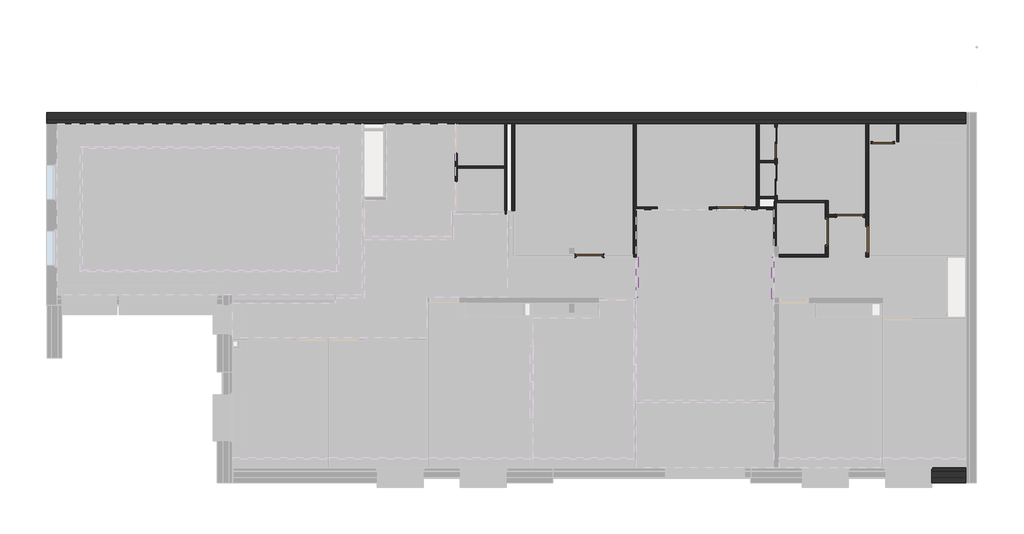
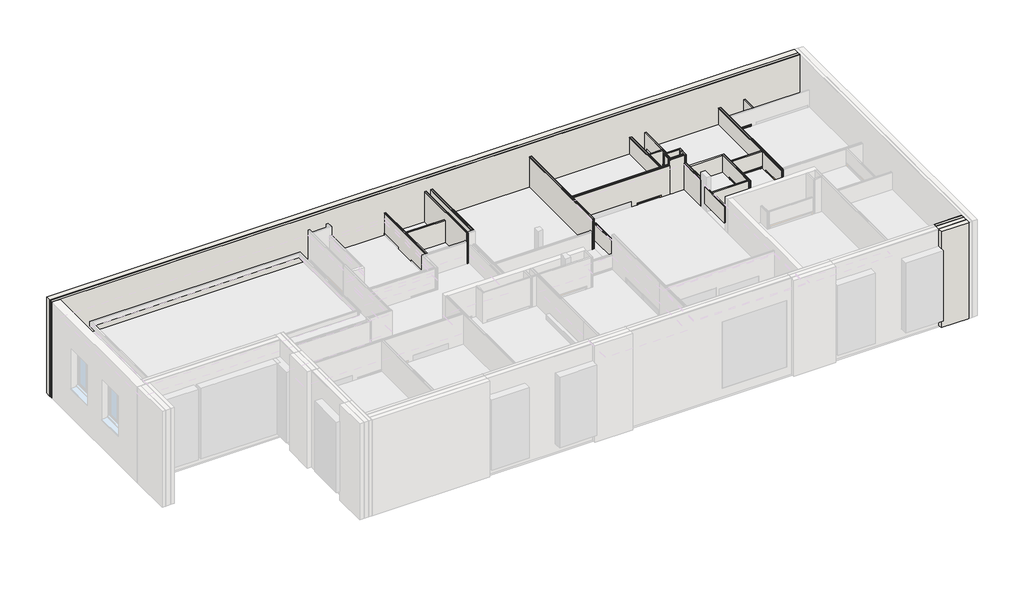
# One storey, part 5 of 8: 25 walls, 8 doors.
"""IFC4 building model written with IfcOpenShell, lengths in millimetres."""

from ifc_helpers import new_model, si_unit, frame, origin, origin_with_axes, place, context, project, spatial, polyline, outline, extrude, faceted_brep, transform, mapped, element, save
from components import door_922e83f1, door_a5923646, door_bff1ae0a, door_42d56233

model = new_model("IFC4")

# Units and contexts
model_context = context("Model", 3, world=origin())
ifc_project = project(units=[si_unit("LENGTHUNIT", "METRE", prefix="MILLI")], contexts=[model_context])

# Site, building, storey
site = spatial("IfcSite", under=ifc_project)
building = spatial("IfcBuilding", under=site)
storey = spatial("IfcBuildingStorey", under=building, Name="0 Mairie RDC 0.00", Elevation=0.0)

# Doors
placement = place(None, origin())
door_shape = door_922e83f1(model_context)
element("IfcDoor", 1, ObjectType="Portes - Int. Simple - PP (0.89m x 2.04m) (1)", at=placement, inside=storey, context=model_context, shape_type="MappedRepresentation", body=[
    mapped(door_shape, transform((-1617.7552543, -6588.7824715, 0.0), x_axis=(0.0, 1.0, 0.0), y_axis=(-1.0, 0.0, 0.0), z_axis=(0.0, 0.0, 1.0))),
])
element("IfcDoor", 2, ObjectType="Portes - Int. Simple - PP (0.89m x 2.04m) (1)", at=placement, inside=storey, context=model_context, shape_type="MappedRepresentation", body=[
    mapped(door_shape, transform((-5847.4166831, -4878.2154166, 0.0), x_axis=(-1.0, 0.0, 0.0), y_axis=(0.0, -1.0, 0.0), z_axis=(0.0, 0.0, 1.0))),
])
element("IfcDoor", 3, ObjectType="Portes - Int. Simple - PP (0.89m x 2.04m) (1)", at=placement, inside=storey, context=model_context, shape_type="MappedRepresentation", body=[
    mapped(door_shape, transform((-1697.7552543, -5137.6533676, 0.0), x_axis=(-1.0, 0.0, 0.0), y_axis=(0.0, -1.0, 0.0), z_axis=(0.0, 0.0, 1.0))),
])
door_2_shape = door_a5923646(model_context)
element("IfcDoor", 4, ObjectType="Portes - Int. Simple - PP (0.89m x 2.04m) (2)", at=placement, inside=storey, context=model_context, shape_type="MappedRepresentation", body=[
    mapped(door_2_shape, transform((-3018.9176162, -6252.6533676, 0.0), x_axis=(0.0, 1.0, 0.0), y_axis=(-1.0, 0.0, 0.0), z_axis=(0.0, 0.0, 1.0))),
])
element("IfcDoor", 5, ObjectType="Portes - Int. Simple - PP (0.89m x 2.04m) (2)", at=placement, inside=storey, context=model_context, shape_type="MappedRepresentation", body=[
    mapped(door_2_shape, transform((-10848.5461708, -6532.5340392, 0.0), x_axis=(-1.0, 0.0, 0.0), y_axis=(0.0, -1.0, 0.0), z_axis=(0.0, 0.0, 1.0))),
])
door_3_shape = door_bff1ae0a(model_context)
element("IfcDoor", 6, ObjectType="Portes - Int. Simple - PP (0.73m x 2.04m)", at=placement, inside=storey, context=model_context, shape_type="MappedRepresentation", body=[
    mapped(door_3_shape, transform((-1595.8864219, -2672.7637486, 0.0), x_axis=(1.0, 0.0, 0.0), y_axis=(0.0, 1.0, 0.0), z_axis=(0.0, 0.0, 1.0))),
])
door_4_shape = door_42d56233(model_context)
element("IfcDoor", 7, ObjectType="Portes - Placard coulissante - 2 panneaux - Placard coulissante - 2 panneaux 1.10", at=placement, inside=storey, context=model_context, shape_type="MappedRepresentation", body=[
    mapped(door_4_shape, transform((-4807.4967035, -3189.805772, 0.0), x_axis=(0.0, 1.0, 0.0), y_axis=(-1.0, 0.0, 0.0), z_axis=(0.0, 0.0, 1.0))),
])
element("IfcDoor", 8, ObjectType="Portes - Placard coulissante - 2 panneaux - Placard coulissante - 2 panneaux 1.10", at=placement, inside=storey, context=model_context, shape_type="MappedRepresentation", body=[
    mapped(door_4_shape, transform((-4877.4967035, -3377.5549021, 0.0), x_axis=(0.0, -1.0, 0.0), y_axis=(1.0, 0.0, 0.0), z_axis=(0.0, 0.0, 1.0))),
])

# Walls
element("IfcWall", 9, ObjectType="Murs - Mur de base - A cloison placostil 98 sèche", at=placement, inside=storey, context=model_context, shape_type="SweptSolid", body=[
    extrude(outline(polyline([(-9808.4471465, -6632.5340392), (-9808.4471465, -1972.7637486), (-9795.9471465, -1972.7637486), (-9795.9471465, -6632.5340392), (-9808.4471465, -6632.5340392)])), origin_with_axes(), (0.0, 0.0, 1.0), 3370.0),
    extrude(outline(polyline([(-9795.9471465, -6632.5340392), (-9795.9471465, -1972.7637486), (-9783.4471465, -1972.7637486), (-9783.4471465, -6632.5340392), (-9795.9471465, -6632.5340392)])), origin_with_axes(), (0.0, 0.0, 1.0), 3370.0),
    extrude(outline(polyline([(-9783.4471465, -6632.5340392), (-9783.4471465, -1972.7637486), (-9733.4471465, -1972.7637486), (-9733.4471465, -6632.5340392), (-9783.4471465, -6632.5340392)])), origin_with_axes(), (0.0, 0.0, 1.0), 3370.0),
    extrude(outline(polyline([(-9733.4471465, -6632.5340392), (-9733.4471465, -1972.7637486), (-9720.9471465, -1972.7637486), (-9720.9471465, -6632.5340392), (-9733.4471465, -6632.5340392)])), origin_with_axes(), (0.0, 0.0, 1.0), 3370.0),
    extrude(outline(polyline([(-9720.9471465, -6632.5340392), (-9720.9471465, -1972.7637486), (-9708.4471465, -1972.7637486), (-9708.4471465, -6632.5340392), (-9720.9471465, -6632.5340392)])), origin_with_axes(), (0.0, 0.0, 1.0), 3370.0),
])
element("IfcWall", 10, ObjectType="Murs - Mur de base - A cloison placostil 98 sèche", at=placement, inside=storey, context=model_context, shape_type="SweptSolid", body=[
    extrude(outline(polyline([(-5527.496701, -4510.805772), (-5527.496701, -1972.7637486), (-5514.996701, -1972.7637486), (-5514.996701, -4510.805772), (-5527.496701, -4510.805772)])), origin_with_axes(), (0.0, 0.0, 1.0), 2750.0),
    extrude(outline(polyline([(-5514.996701, -4510.805772), (-5514.996701, -1972.7637486), (-5502.496701, -1972.7637486), (-5502.496701, -4510.805772), (-5514.996701, -4510.805772)])), origin_with_axes(), (0.0, 0.0, 1.0), 2750.0),
    extrude(outline(polyline([(-5502.496701, -4510.805772), (-5502.496701, -1972.7637486), (-5452.496701, -1972.7637486), (-5452.496701, -4510.805772), (-5502.496701, -4510.805772)])), origin_with_axes(), (0.0, 0.0, 1.0), 2750.0),
    extrude(outline(polyline([(-5452.496701, -4510.805772), (-5452.496701, -1972.7637486), (-5439.996701, -1972.7637486), (-5439.996701, -4510.805772), (-5452.496701, -4510.805772)])), origin_with_axes(), (0.0, 0.0, 1.0), 2750.0),
    extrude(outline(polyline([(-5439.996701, -4510.805772), (-5439.996701, -1972.7637486), (-5427.496701, -1972.7637486), (-5427.496701, -4510.805772), (-5439.996701, -4510.805772)])), origin_with_axes(), (0.0, 0.0, 1.0), 2750.0),
])
element("IfcWall", 11, ObjectType="Murs - Mur de base - A cloison placostil 72 sèche", at=placement, inside=storey, context=model_context, shape_type="SweptSolid", body=[
    extrude(outline(polyline([(-4510.805772, 2750.0), (-1987.805772, 2750.0), (-1987.805772, 0.0), (-2089.805772, 0.0), (-2089.805772, 2100.0), (-3189.805772, 2100.0), (-3189.805772, 0.0), (-3377.5549021, 0.0), (-3377.5549021, 2100.0), (-4477.5549021, 2100.0), (-4477.5549021, 0.0), (-4510.805772, 0.0), (-4510.805772, 2750.0)])), frame((-4877.4967035, 0.0, 0.0), z_axis=(1.0, 0.0, 0.0), x_axis=(0.0, 1.0, 0.0)), (0.0, 0.0, 1.0), 10.0),
    extrude(outline(polyline([(-4510.805772, 2750.0), (-1987.805772, 2750.0), (-1987.805772, 0.0), (-2089.805772, 0.0), (-2089.805772, 2100.0), (-3189.805772, 2100.0), (-3189.805772, 0.0), (-3377.5549021, 0.0), (-3377.5549021, 2100.0), (-4477.5549021, 2100.0), (-4477.5549021, 0.0), (-4510.805772, 0.0), (-4510.805772, 2750.0)])), frame((-4867.4967035, 0.0, 0.0), z_axis=(1.0, 0.0, 0.0), x_axis=(0.0, 1.0, 0.0)), (0.0, 0.0, 1.0), 50.0),
    extrude(outline(polyline([(-4510.805772, 2750.0), (-1987.805772, 2750.0), (-1987.805772, 0.0), (-2089.805772, 0.0), (-2089.805772, 2100.0), (-3189.805772, 2100.0), (-3189.805772, 0.0), (-3377.5549021, 0.0), (-3377.5549021, 2100.0), (-4477.5549021, 2100.0), (-4477.5549021, 0.0), (-4510.805772, 0.0), (-4510.805772, 2750.0)])), frame((-4817.4967035, 0.0, 0.0), z_axis=(1.0, 0.0, 0.0), x_axis=(0.0, 1.0, 0.0)), (0.0, 0.0, 1.0), 10.0),
])
element("IfcWall", 12, ObjectType="Murs - Mur de base - A cloison placostil 72 sèche", at=placement, inside=storey, context=model_context, shape_type="SweptSolid", body=[
    extrude(outline(polyline([(-5527.496701, -4510.805772), (-4877.4967035, -4510.805772), (-4877.4967035, -4520.805772), (-5527.496701, -4520.805772), (-5527.496701, -4510.805772)])), origin_with_axes(), (0.0, 0.0, 1.0), 3550.0),
    extrude(outline(polyline([(-5527.496701, -4520.805772), (-4877.4967035, -4520.805772), (-4877.4967035, -4570.805772), (-5527.496701, -4570.805772), (-5527.496701, -4520.805772)])), origin_with_axes(), (0.0, 0.0, 1.0), 3550.0),
    extrude(outline(polyline([(-5527.496701, -4570.805772), (-4877.4967035, -4570.805772), (-4877.4967035, -4580.805772), (-5527.496701, -4580.805772), (-5527.496701, -4570.805772)])), origin_with_axes(), (0.0, 0.0, 1.0), 3550.0),
])
element("IfcWall", 13, ObjectType="Murs - Mur de base - A cloison placostil 98 sèche", at=placement, inside=storey, context=model_context, shape_type="SweptSolid", body=[
    extrude(outline(polyline([(-6633.7824715, 2750.0), (-1972.7637486, 2750.0), (-1972.7637486, 0.0), (-5518.7824715, 0.0), (-5518.7824715, 2075.0), (-6518.7824715, 2075.0), (-6518.7824715, 0.0), (-6633.7824715, 0.0), (-6633.7824715, 2750.0)])), frame((-1717.7552543, 0.0, 0.0), z_axis=(1.0, 0.0, 0.0), x_axis=(0.0, 1.0, 0.0)), (0.0, 0.0, 1.0), 12.5),
    extrude(outline(polyline([(-6633.7824715, 2750.0), (-1972.7637486, 2750.0), (-1972.7637486, 0.0), (-5518.7824715, 0.0), (-5518.7824715, 2075.0), (-6518.7824715, 2075.0), (-6518.7824715, 0.0), (-6633.7824715, 0.0), (-6633.7824715, 2750.0)])), frame((-1705.2552543, 0.0, 0.0), z_axis=(1.0, 0.0, 0.0), x_axis=(0.0, 1.0, 0.0)), (0.0, 0.0, 1.0), 12.5),
    extrude(outline(polyline([(-6633.7824715, 2750.0), (-1972.7637486, 2750.0), (-1972.7637486, 0.0), (-5518.7824715, 0.0), (-5518.7824715, 2075.0), (-6518.7824715, 2075.0), (-6518.7824715, 0.0), (-6633.7824715, 0.0), (-6633.7824715, 2750.0)])), frame((-1692.7552543, 0.0, 0.0), z_axis=(1.0, 0.0, 0.0), x_axis=(0.0, 1.0, 0.0)), (0.0, 0.0, 1.0), 50.0),
    extrude(outline(polyline([(-6633.7824715, 2750.0), (-1972.7637486, 2750.0), (-1972.7637486, 0.0), (-5518.7824715, 0.0), (-5518.7824715, 2075.0), (-6518.7824715, 2075.0), (-6518.7824715, 0.0), (-6633.7824715, 0.0), (-6633.7824715, 2750.0)])), frame((-1642.7552543, 0.0, 0.0), z_axis=(1.0, 0.0, 0.0), x_axis=(0.0, 1.0, 0.0)), (0.0, 0.0, 1.0), 12.5),
    extrude(outline(polyline([(-6633.7824715, 2750.0), (-1972.7637486, 2750.0), (-1972.7637486, 0.0), (-5518.7824715, 0.0), (-5518.7824715, 2075.0), (-6518.7824715, 2075.0), (-6518.7824715, 0.0), (-6633.7824715, 0.0), (-6633.7824715, 2750.0)])), frame((-1630.2552543, 0.0, 0.0), z_axis=(1.0, 0.0, 0.0), x_axis=(0.0, 1.0, 0.0)), (0.0, 0.0, 1.0), 12.5),
])
element("IfcWall", 14, ObjectType="Murs - Mur de base - A cloison placostil 72 sèche", at=placement, inside=storey, context=model_context, shape_type="SweptSolid", body=[
    extrude(outline(polyline([(-5427.496701, -3257.7490792), (-4877.4967035, -3257.7490792), (-4877.4967035, -3267.7490792), (-5427.496701, -3267.7490792), (-5427.496701, -3257.7490792)])), origin_with_axes(), (0.0, 0.0, 1.0), 2750.0),
    extrude(outline(polyline([(-5427.496701, -3267.7490792), (-4877.4967035, -3267.7490792), (-4877.4967035, -3317.7490792), (-5427.496701, -3317.7490792), (-5427.496701, -3267.7490792)])), origin_with_axes(), (0.0, 0.0, 1.0), 2750.0),
    extrude(outline(polyline([(-5427.496701, -3317.7490792), (-4877.4967035, -3317.7490792), (-4877.4967035, -3327.7490792), (-5427.496701, -3327.7490792), (-5427.496701, -3317.7490792)])), origin_with_axes(), (0.0, 0.0, 1.0), 2750.0),
])
element("IfcWall", 15, ObjectType="Murs - Mur de base - A cloison placostil 72 sèche", at=placement, inside=storey, context=model_context, shape_type="SweptSolid", body=[
    extrude(outline(polyline([(-3118.9176162, -4722.7868397), (-4827.496702, -4722.7868397), (-4827.496702, -4687.7868397), (-4807.4967035, -4687.7868397), (-4807.4967035, -4652.7868397), (-3118.9176162, -4652.7868397), (-3118.9176162, -4722.7868397)])), origin_with_axes(), (0.0, 0.0, 1.0), 2750.0),
])
element("IfcWall", 16, ObjectType="Murs - Mur de base - A cloison placostil 98 sèche", at=placement, inside=storey, context=model_context, shape_type="SweptSolid", body=[
    extrude(outline(polyline([(-6633.7824715, 2750.0), (-4652.7868397, 2750.0), (-4652.7868397, 0.0), (-5252.6533676, 0.0), (-5252.6533676, 2075.0), (-6252.6533676, 2075.0), (-6252.6533676, 0.0), (-6633.7824715, 0.0), (-6633.7824715, 2750.0)])), frame((-3118.9176162, 0.0, 0.0), z_axis=(1.0, 0.0, 0.0), x_axis=(0.0, 1.0, 0.0)), (0.0, 0.0, 1.0), 12.5),
    extrude(outline(polyline([(-6633.7824715, 2750.0), (-4652.7868397, 2750.0), (-4652.7868397, 0.0), (-5252.6533676, 0.0), (-5252.6533676, 2075.0), (-6252.6533676, 2075.0), (-6252.6533676, 0.0), (-6633.7824715, 0.0), (-6633.7824715, 2750.0)])), frame((-3106.4176162, 0.0, 0.0), z_axis=(1.0, 0.0, 0.0), x_axis=(0.0, 1.0, 0.0)), (0.0, 0.0, 1.0), 12.5),
    extrude(outline(polyline([(-6633.7824715, 2750.0), (-4652.7868397, 2750.0), (-4652.7868397, 0.0), (-5252.6533676, 0.0), (-5252.6533676, 2075.0), (-6252.6533676, 2075.0), (-6252.6533676, 0.0), (-6633.7824715, 0.0), (-6633.7824715, 2750.0)])), frame((-3093.9176162, 0.0, 0.0), z_axis=(1.0, 0.0, 0.0), x_axis=(0.0, 1.0, 0.0)), (0.0, 0.0, 1.0), 50.0),
    extrude(outline(polyline([(-6633.7824715, 2750.0), (-4652.7868397, 2750.0), (-4652.7868397, 0.0), (-5252.6533676, 0.0), (-5252.6533676, 2075.0), (-6252.6533676, 2075.0), (-6252.6533676, 0.0), (-6633.7824715, 0.0), (-6633.7824715, 2750.0)])), frame((-3043.9176162, 0.0, 0.0), z_axis=(1.0, 0.0, 0.0), x_axis=(0.0, 1.0, 0.0)), (0.0, 0.0, 1.0), 12.5),
    extrude(outline(polyline([(-6633.7824715, 2750.0), (-4652.7868397, 2750.0), (-4652.7868397, 0.0), (-5252.6533676, 0.0), (-5252.6533676, 2075.0), (-6252.6533676, 2075.0), (-6252.6533676, 0.0), (-6633.7824715, 0.0), (-6633.7824715, 2750.0)])), frame((-3031.4176162, 0.0, 0.0), z_axis=(1.0, 0.0, 0.0), x_axis=(0.0, 1.0, 0.0)), (0.0, 0.0, 1.0), 12.5),
])
element("IfcWall", 17, ObjectType="Murs - Mur de base - A cloison placostil 98 sèche", at=placement, inside=storey, context=model_context, shape_type="SweptSolid", body=[
    extrude(outline(polyline([(-4726.8279653, -6633.7824715), (-4726.8279653, -6621.2824715), (-3118.9176162, -6621.2824715), (-3118.9176162, -6633.7824715), (-4726.8279653, -6633.7824715)])), origin_with_axes(), (0.0, 0.0, 1.0), 2750.0),
    extrude(outline(polyline([(-4726.8279653, -6621.2824715), (-4726.8279653, -6608.7824715), (-3118.9176162, -6608.7824715), (-3118.9176162, -6621.2824715), (-4726.8279653, -6621.2824715)])), origin_with_axes(), (0.0, 0.0, 1.0), 2750.0),
    extrude(outline(polyline([(-4726.8279653, -6608.7824715), (-4726.8279653, -6558.7824715), (-3118.9176162, -6558.7824715), (-3118.9176162, -6608.7824715), (-4726.8279653, -6608.7824715)])), origin_with_axes(), (0.0, 0.0, 1.0), 2750.0),
    extrude(outline(polyline([(-4726.8279653, -6558.7824715), (-4726.8279653, -6546.2824715), (-3118.9176162, -6546.2824715), (-3118.9176162, -6558.7824715), (-4726.8279653, -6558.7824715)])), origin_with_axes(), (0.0, 0.0, 1.0), 2750.0),
    extrude(outline(polyline([(-4726.8279653, -6546.2824715), (-4726.8279653, -6533.7824715), (-3118.9176162, -6533.7824715), (-3118.9176162, -6546.2824715), (-4726.8279653, -6546.2824715)])), origin_with_axes(), (0.0, 0.0, 1.0), 2750.0),
])
element("IfcWall", 18, ObjectType="Murs - Mur de base - A cloison placostil 98 sèche", at=placement, inside=storey, context=model_context, shape_type="SweptSolid", body=[
    extrude(outline(polyline([(2750.0, -1717.7552543), (2750.0, -3018.9176162), (0.0, -3018.9176162), (0.0, -2767.7552543), (2075.0, -2767.7552543), (2075.0, -1767.7552543), (0.0, -1767.7552543), (0.0, -1717.7552543), (2750.0, -1717.7552543)])), frame((0.0, -5237.6533676, 0.0), z_axis=(0.0, 1.0, 0.0), x_axis=(0.0, 0.0, 1.0)), (0.0, 0.0, 1.0), 12.5),
    extrude(outline(polyline([(2750.0, -1717.7552543), (2750.0, -3018.9176162), (0.0, -3018.9176162), (0.0, -2767.7552543), (2075.0, -2767.7552543), (2075.0, -1767.7552543), (0.0, -1767.7552543), (0.0, -1717.7552543), (2750.0, -1717.7552543)])), frame((0.0, -5225.1533676, 0.0), z_axis=(0.0, 1.0, 0.0), x_axis=(0.0, 0.0, 1.0)), (0.0, 0.0, 1.0), 12.5),
    extrude(outline(polyline([(2750.0, -1717.7552543), (2750.0, -3018.9176162), (0.0, -3018.9176162), (0.0, -2767.7552543), (2075.0, -2767.7552543), (2075.0, -1767.7552543), (0.0, -1767.7552543), (0.0, -1717.7552543), (2750.0, -1717.7552543)])), frame((0.0, -5212.6533676, 0.0), z_axis=(0.0, 1.0, 0.0), x_axis=(0.0, 0.0, 1.0)), (0.0, 0.0, 1.0), 50.0),
    extrude(outline(polyline([(2750.0, -1717.7552543), (2750.0, -3018.9176162), (0.0, -3018.9176162), (0.0, -2767.7552543), (2075.0, -2767.7552543), (2075.0, -1767.7552543), (0.0, -1767.7552543), (0.0, -1717.7552543), (2750.0, -1717.7552543)])), frame((0.0, -5162.6533676, 0.0), z_axis=(0.0, 1.0, 0.0), x_axis=(0.0, 0.0, 1.0)), (0.0, 0.0, 1.0), 12.5),
    extrude(outline(polyline([(2750.0, -1717.7552543), (2750.0, -3018.9176162), (0.0, -3018.9176162), (0.0, -2767.7552543), (2075.0, -2767.7552543), (2075.0, -1767.7552543), (0.0, -1767.7552543), (0.0, -1717.7552543), (2750.0, -1717.7552543)])), frame((0.0, -5150.1533676, 0.0), z_axis=(0.0, 1.0, 0.0), x_axis=(0.0, 0.0, 1.0)), (0.0, 0.0, 1.0), 12.5),
])
element("IfcWall", 19, ObjectType="Murs - Mur de base - A cloison placostil 98 sèche", at=placement, inside=storey, context=model_context, shape_type="SweptSolid", body=[
    extrude(outline(polyline([(3300.0, -5527.496701), (3300.0, -9708.4471465), (0.0, -9708.4471465), (0.0, -6917.4166831), (2075.0, -6917.4166831), (2075.0, -5917.4166831), (0.0, -5917.4166831), (0.0, -5527.496701), (3300.0, -5527.496701)]), holes=[polyline([(2250.0, -7174.496701), (1000.0, -7174.496701), (1000.0, -8974.496701), (2250.0, -8974.496701), (2250.0, -7174.496701)])]), frame((0.0, -4978.2154166, 0.0), z_axis=(0.0, 1.0, 0.0), x_axis=(0.0, 0.0, 1.0)), (0.0, 0.0, 1.0), 12.5),
    extrude(outline(polyline([(3300.0, -5527.496701), (3300.0, -9708.4471465), (0.0, -9708.4471465), (0.0, -6917.4166831), (2075.0, -6917.4166831), (2075.0, -5917.4166831), (0.0, -5917.4166831), (0.0, -5527.496701), (3300.0, -5527.496701)]), holes=[polyline([(2250.0, -7174.496701), (1000.0, -7174.496701), (1000.0, -8974.496701), (2250.0, -8974.496701), (2250.0, -7174.496701)])]), frame((0.0, -4965.7154166, 0.0), z_axis=(0.0, 1.0, 0.0), x_axis=(0.0, 0.0, 1.0)), (0.0, 0.0, 1.0), 12.5),
    extrude(outline(polyline([(3300.0, -5527.496701), (3300.0, -9708.4471465), (0.0, -9708.4471465), (0.0, -6917.4166831), (2075.0, -6917.4166831), (2075.0, -5917.4166831), (0.0, -5917.4166831), (0.0, -5527.496701), (3300.0, -5527.496701)]), holes=[polyline([(2250.0, -7174.496701), (1000.0, -7174.496701), (1000.0, -8974.496701), (2250.0, -8974.496701), (2250.0, -7174.496701)])]), frame((0.0, -4953.2154166, 0.0), z_axis=(0.0, 1.0, 0.0), x_axis=(0.0, 0.0, 1.0)), (0.0, 0.0, 1.0), 50.0),
    extrude(outline(polyline([(3300.0, -5527.496701), (3300.0, -9708.4471465), (0.0, -9708.4471465), (0.0, -6917.4166831), (2075.0, -6917.4166831), (2075.0, -5917.4166831), (0.0, -5917.4166831), (0.0, -5527.496701), (3300.0, -5527.496701)]), holes=[polyline([(2250.0, -7174.496701), (1000.0, -7174.496701), (1000.0, -8974.496701), (2250.0, -8974.496701), (2250.0, -7174.496701)])]), frame((0.0, -4903.2154166, 0.0), z_axis=(0.0, 1.0, 0.0), x_axis=(0.0, 0.0, 1.0)), (0.0, 0.0, 1.0), 12.5),
    extrude(outline(polyline([(3300.0, -5527.496701), (3300.0, -9708.4471465), (0.0, -9708.4471465), (0.0, -6917.4166831), (2075.0, -6917.4166831), (2075.0, -5917.4166831), (0.0, -5917.4166831), (0.0, -5527.496701), (3300.0, -5527.496701)]), holes=[polyline([(2250.0, -7174.496701), (1000.0, -7174.496701), (1000.0, -8974.496701), (2250.0, -8974.496701), (2250.0, -7174.496701)])]), frame((0.0, -4890.7154166, 0.0), z_axis=(0.0, 1.0, 0.0), x_axis=(0.0, 0.0, 1.0)), (0.0, 0.0, 1.0), 12.5),
])
element("IfcWall", 20, ObjectType="Murs - Mur de base - A cloison placostil 72 sèche", at=placement, inside=storey, context=model_context, shape_type="SweptSolid", body=[
    extrude(outline(polyline([(-4897.496702, -4978.2154166), (-4897.496702, -4687.7868397), (-4887.496702, -4687.7868397), (-4887.496702, -4978.2154166), (-4897.496702, -4978.2154166)])), origin_with_axes(), (0.0, 0.0, 1.0), 3550.0),
    extrude(outline(polyline([(-4887.496702, -4978.2154166), (-4887.496702, -4687.7868397), (-4837.496702, -4687.7868397), (-4837.496702, -4978.2154166), (-4887.496702, -4978.2154166)])), origin_with_axes(), (0.0, 0.0, 1.0), 3550.0),
    extrude(outline(polyline([(-4837.496702, -4978.2154166), (-4837.496702, -4687.7868397), (-4827.496702, -4687.7868397), (-4827.496702, -4978.2154166), (-4837.496702, -4978.2154166)])), origin_with_axes(), (0.0, 0.0, 1.0), 3550.0),
])
element("IfcWall", 21, ObjectType="Murs - Mur de base - A cloison placostil 98 sèche", at=placement, inside=storey, context=model_context, shape_type="SweptSolid", body=[
    extrude(outline(polyline([(-4927.496702, -6233.7824715), (-4927.496702, -4978.2154166), (-4914.996702, -4978.2154166), (-4914.996702, -6233.7824715), (-4927.496702, -6233.7824715)])), origin_with_axes(), (0.0, 0.0, 1.0), 3200.0),
    extrude(outline(polyline([(-4914.996702, -6233.7824715), (-4914.996702, -4978.2154166), (-4902.496702, -4978.2154166), (-4902.496702, -6233.7824715), (-4914.996702, -6233.7824715)])), origin_with_axes(), (0.0, 0.0, 1.0), 3200.0),
    extrude(outline(polyline([(-4902.496702, -6233.7824715), (-4902.496702, -4978.2154166), (-4852.496702, -4978.2154166), (-4852.496702, -6233.7824715), (-4902.496702, -6233.7824715)])), origin_with_axes(), (0.0, 0.0, 1.0), 3200.0),
    extrude(outline(polyline([(-4852.496702, -6233.7824715), (-4852.496702, -4978.2154166), (-4839.996702, -4978.2154166), (-4839.996702, -6233.7824715), (-4852.496702, -6233.7824715)])), origin_with_axes(), (0.0, 0.0, 1.0), 3200.0),
    extrude(outline(polyline([(-4839.996702, -6233.7824715), (-4839.996702, -4978.2154166), (-4827.496702, -4978.2154166), (-4827.496702, -6233.7824715), (-4839.996702, -6233.7824715)])), origin_with_axes(), (0.0, 0.0, 1.0), 3200.0),
])
element("IfcWall", 22, ObjectType="Murs - Mur de base - A cloison placostil 72 sèche", at=placement, inside=storey, context=model_context, shape_type="SweptSolid", body=[
    extrude(outline(polyline([(-634.0175894, -2602.7637486), (-634.0175894, -1972.0566419), (-624.0175894, -1972.0566419), (-624.0175894, -2602.7637486), (-634.0175894, -2602.7637486)])), origin_with_axes(), (0.0, 0.0, 1.0), 2750.0),
    extrude(outline(polyline([(-624.0175894, -2602.7637486), (-624.0175894, -1972.0566419), (-574.0175894, -1972.0566419), (-574.0175894, -2602.7637486), (-624.0175894, -2602.7637486)])), origin_with_axes(), (0.0, 0.0, 1.0), 2750.0),
    extrude(outline(polyline([(-574.0175894, -2602.7637486), (-574.0175894, -1972.0566419), (-564.0175894, -1972.0566419), (-564.0175894, -2602.7637486), (-574.0175894, -2602.7637486)])), origin_with_axes(), (0.0, 0.0, 1.0), 2750.0),
])
element("IfcWall", 23, ObjectType="Murs - Mur de base - A Parement pierre 19 + Béton 20 + vide 1 +   Doublage 14", at=placement, inside=storey, context=model_context, shape_type="SolidModel", body=[
    faceted_brep([(577.5549073, -14508.5662223, 3950.0), (1777.6156007, -14508.5662223, 3950.0), (1777.6156007, -14318.5662223, 3950.0), (577.5549073, -14318.5662223, 3950.0), (577.5549073, -14508.5662223, -400.0), (577.5549073, -14318.5662223, -400.0), (1777.6156007, -14318.5662223, -400.0), (1777.6156007, -14508.5662223, -400.0), (577.5549073, -14508.5662223, 3185.0), (577.5549073, -14508.5662223, 0.0), (577.5549073, -14318.5662223, 7.6728988), (577.5549073, -14318.5662223, 3185.0)], [[[0, 1, 2, 3]], [[4, 5, 6, 7]], [[1, 0, 8, 9, 4, 7]], [[2, 1, 7, 6]], [[3, 2, 6, 5, 10, 11]], [[0, 3, 11, 10, 5, 4, 9, 8]]]),
    faceted_brep([(577.5549073, -14318.5662223, 3950.0), (1777.6156007, -14318.5662223, 3950.0), (1777.6156007, -14118.5662223, 3950.0), (577.5549073, -14118.5662223, 3950.0), (577.5549073, -14318.5662223, -400.0), (577.5549073, -14118.5662223, -400.0), (1777.6156007, -14118.5662223, -400.0), (1777.6156007, -14318.5662223, -400.0), (577.5549073, -14318.5662223, 3185.0), (577.5549073, -14318.5662223, 7.6728988), (577.5549073, -14118.5662223, 28.6937459), (577.5549073, -14118.5662223, 3185.0)], [[[0, 1, 2, 3]], [[4, 5, 6, 7]], [[1, 0, 8, 9, 4, 7]], [[2, 1, 7, 6]], [[3, 2, 6, 5, 10, 11]], [[0, 3, 11, 10, 5, 4, 9, 8]]]),
    faceted_brep([(577.5549073, -14118.5662223, 3950.0), (1777.6156007, -14118.5662223, 3950.0), (1777.6156007, -14108.5662223, 3950.0), (577.5549073, -14108.5662223, 3950.0), (577.5549073, -14118.5662223, -400.0), (577.5549073, -14108.5662223, -400.0), (1777.6156007, -14108.5662223, -400.0), (1777.6156007, -14118.5662223, -400.0), (577.5549073, -14118.5662223, 3185.0), (577.5549073, -14118.5662223, 28.6937459), (577.5549073, -14108.5662223, 29.7447882), (577.5549073, -14108.5662223, 3185.0)], [[[0, 1, 2, 3]], [[4, 5, 6, 7]], [[1, 0, 8, 9, 4, 7]], [[2, 1, 7, 6]], [[3, 2, 6, 5, 10, 11]], [[0, 3, 11, 10, 5, 4, 9, 8]]]),
    faceted_brep([(577.5549073, -14108.5662223, 3950.0), (1777.6156007, -14108.5662223, 3950.0), (1777.6156007, -13988.5662223, 3950.0), (577.5549073, -13988.5662223, 3950.0), (577.5549073, -14108.5662223, -400.0), (577.5549073, -13988.5662223, -400.0), (1777.6156007, -13988.5662223, -400.0), (1777.6156007, -14108.5662223, -400.0), (577.5549073, -14108.5662223, 3185.0), (577.5549073, -14108.5662223, 29.7447882), (577.5549073, -13988.5662223, 35.0), (627.6156007, -13988.5662223, 35.0), (627.6156007, -13988.5662223, 3235.0), (577.5549073, -13988.5662223, 3235.0), (577.5549073, -14028.5662223, 3235.0), (577.5549073, -14028.5662223, 3195.0), (577.5549073, -14078.5662223, 3195.0), (577.5549073, -14078.5662223, 3185.0), (577.5549073, -14078.5662223, 35.0), (577.5549073, -14058.5662223, 35.0), (587.6156007, -14028.5662223, 35.0), (627.6156007, -14028.5662223, 35.0), (587.6156007, -14078.5662223, 35.0), (627.6156007, -14028.5662223, 3235.0), (587.6156007, -14028.5662223, 3195.0), (587.6156007, -14078.5662223, 3195.0)], [[[0, 1, 2, 3]], [[4, 5, 6, 7]], [[1, 0, 8, 9, 4, 7]], [[2, 1, 7, 6]], [[3, 2, 6, 5, 10, 11, 12, 13]], [[0, 3, 13, 14, 15, 16, 17, 18, 19, 10, 5, 4, 9, 8]], [[20, 21, 11, 10, 19, 18, 22]], [[21, 23, 12, 11]], [[21, 20, 24, 15, 14, 23]], [[20, 22, 25, 24]], [[22, 18, 17, 16, 25]], [[12, 23, 14, 13]], [[24, 25, 16, 15]]]),
    extrude(outline(polyline([(3950.0, 1777.6156007), (3950.0, 577.5549073), (3235.0, 577.5549073), (3235.0, 627.6156007), (35.0, 627.6156007), (35.0, 577.5549073), (-400.0, 577.5549073), (-400.0, 1777.6156007), (3950.0, 1777.6156007)])), frame((0.0, -13988.5662223, 0.0), z_axis=(0.0, 1.0, 0.0), x_axis=(0.0, 0.0, 1.0)), (0.0, 0.0, 1.0), 10.0),
])
element("IfcWall", 24, ObjectType="Murs - Mur de base - A  Béton 25 + vide 1 + Doublage 15", at=placement, inside=storey, context=model_context, shape_type="SweptSolid", body=[
    extrude(outline(polyline([(1777.6156007, -1582.7637486), (1777.6156007, -1832.7637486), (-30247.0149756, -1832.7637486), (-30247.0149756, -1582.7637486), (1777.6156007, -1582.7637486)])), frame((0.0, 0.0, -400.0), z_axis=(0.0, 0.0, 1.0), x_axis=(1.0, 0.0, 0.0)), (0.0, 0.0, 1.0), 4350.0),
    extrude(outline(polyline([(1777.6156007, -1832.7637486), (1777.6156007, -1842.7637486), (-30247.0149756, -1842.7637486), (-30247.0149756, -1832.7637486), (1777.6156007, -1832.7637486)])), frame((0.0, 0.0, -400.0), z_axis=(0.0, 0.0, 1.0), x_axis=(1.0, 0.0, 0.0)), (0.0, 0.0, 1.0), 4350.0),
    extrude(outline(polyline([(1777.6156007, -1842.7637486), (1777.6156007, -1962.7637486), (-30247.0149756, -1962.7637486), (-30247.0149756, -1842.7637486), (1777.6156007, -1842.7637486)])), frame((0.0, 0.0, -400.0), z_axis=(0.0, 0.0, 1.0), x_axis=(1.0, 0.0, 0.0)), (0.0, 0.0, 1.0), 4350.0),
    extrude(outline(polyline([(1777.6156007, -1962.7637486), (1777.6156007, -1972.7637486), (-30247.0149756, -1972.7637486), (-30247.0149756, -1962.7637486), (1777.6156007, -1962.7637486)])), frame((0.0, 0.0, -400.0), z_axis=(0.0, 0.0, 1.0), x_axis=(1.0, 0.0, 0.0)), (0.0, 0.0, 1.0), 4350.0),
])
element("IfcWall", 25, ObjectType="Murs - Mur de base - A cloison placostil 72 sèche", at=placement, inside=storey, context=model_context, shape_type="SweptSolid", body=[
    extrude(outline(polyline([(-9638.4471465, -8032.7867091), (-9648.4471465, -8032.7867091), (-9648.4471465, -6633.2685444), (-9638.4471465, -6633.2685444), (-9638.4471465, -8032.7867091)])), frame((0.0, 0.0, 2400.0), z_axis=(0.0, 0.0, 1.0), x_axis=(1.0, 0.0, 0.0)), (0.0, 0.0, 1.0), 750.0),
    extrude(outline(polyline([(-9648.4471465, -8032.7867091), (-9698.4471465, -8032.7867091), (-9698.4471465, -6633.2685444), (-9648.4471465, -6633.2685444), (-9648.4471465, -8032.7867091)])), frame((0.0, 0.0, 2400.0), z_axis=(0.0, 0.0, 1.0), x_axis=(1.0, 0.0, 0.0)), (0.0, 0.0, 1.0), 750.0),
    extrude(outline(polyline([(-9698.4471465, -8032.7867091), (-9708.4471465, -8032.7867091), (-9708.4471465, -6633.2685444), (-9698.4471465, -6633.2685444), (-9698.4471465, -8032.7867091)])), frame((0.0, 0.0, 2400.0), z_axis=(0.0, 0.0, 1.0), x_axis=(1.0, 0.0, 0.0)), (0.0, 0.0, 1.0), 750.0),
])
element("IfcWall", 26, ObjectType="Murs - Mur de base - A cloison placostil 72 sèche", at=placement, inside=storey, context=model_context, shape_type="SweptSolid", body=[
    extrude(outline(polyline([(-4927.496702, -8082.7867091), (-4937.496702, -8082.7867091), (-4937.496702, -6633.2685444), (-4927.496702, -6633.2685444), (-4927.496702, -8082.7867091)])), frame((0.0, 0.0, 2400.0), z_axis=(0.0, 0.0, 1.0), x_axis=(1.0, 0.0, 0.0)), (0.0, 0.0, 1.0), 750.0),
    extrude(outline(polyline([(-4937.496702, -8082.7867091), (-4987.496702, -8082.7867091), (-4987.496702, -6633.2685444), (-4937.496702, -6633.2685444), (-4937.496702, -8082.7867091)])), frame((0.0, 0.0, 2400.0), z_axis=(0.0, 0.0, 1.0), x_axis=(1.0, 0.0, 0.0)), (0.0, 0.0, 1.0), 750.0),
    extrude(outline(polyline([(-4987.496702, -8082.7867091), (-4997.496702, -8082.7867091), (-4997.496702, -6633.2685444), (-4987.496702, -6633.2685444), (-4987.496702, -8082.7867091)])), frame((0.0, 0.0, 2400.0), z_axis=(0.0, 0.0, 1.0), x_axis=(1.0, 0.0, 0.0)), (0.0, 0.0, 1.0), 750.0),
])
element("IfcWall", 27, ObjectType="Murs - Mur de base - A cloison placostil 72 sèche", at=placement, inside=storey, context=model_context, shape_type="SweptSolid", body=[
    extrude(outline(polyline([(-14226.7760862, -1972.7637486), (-14226.7760862, -5119.9219201), (-14236.7760862, -5119.9219201), (-14236.7760862, -1972.7637486), (-14226.7760862, -1972.7637486)])), origin_with_axes(), (0.0, 0.0, 1.0), 3370.0),
    extrude(outline(polyline([(-14236.7760862, -1972.7637486), (-14236.7760862, -5119.9219201), (-14286.7760862, -5119.9219201), (-14286.7760862, -1972.7637486), (-14236.7760862, -1972.7637486)])), origin_with_axes(), (0.0, 0.0, 1.0), 3370.0),
    extrude(outline(polyline([(-14286.7760862, -1972.7637486), (-14286.7760862, -5119.9219201), (-14296.7760862, -5119.9219201), (-14296.7760862, -1972.7637486), (-14286.7760862, -1972.7637486)])), origin_with_axes(), (0.0, 0.0, 1.0), 3370.0),
])
element("IfcWall", 28, ObjectType="Murs - Mur de base - A cloison placostil 72 sèche", at=placement, inside=storey, context=model_context, shape_type="SweptSolid", body=[
    extrude(outline(polyline([(-5019.9219201, 3000.0), (-1972.7637486, 3000.0), (-1972.7637486, 0.0), (-1987.7637486, 0.0), (-1987.7637486, 2075.0), (-2987.7637486, 2075.0), (-2987.7637486, 0.0), (-4004.9219201, 0.0), (-4004.9219201, 2075.0), (-5004.9219201, 2075.0), (-5004.9219201, 0.0), (-5019.9219201, 0.0), (-5019.9219201, 3000.0)])), frame((-15955.9503686, 0.0, 0.0), z_axis=(1.0, 0.0, 0.0), x_axis=(0.0, 1.0, 0.0)), (0.0, 0.0, 1.0), 10.0),
    extrude(outline(polyline([(-5019.9219201, 3000.0), (-1972.7637486, 3000.0), (-1972.7637486, 0.0), (-1987.7637486, 0.0), (-1987.7637486, 2075.0), (-2987.7637486, 2075.0), (-2987.7637486, 0.0), (-4004.9219201, 0.0), (-4004.9219201, 2075.0), (-5004.9219201, 2075.0), (-5004.9219201, 0.0), (-5019.9219201, 0.0), (-5019.9219201, 3000.0)])), frame((-16005.9503686, 0.0, 0.0), z_axis=(1.0, 0.0, 0.0), x_axis=(0.0, 1.0, 0.0)), (0.0, 0.0, 1.0), 50.0),
    extrude(outline(polyline([(-5019.9219201, 3000.0), (-1972.7637486, 3000.0), (-1972.7637486, 0.0), (-1987.7637486, 0.0), (-1987.7637486, 2075.0), (-2987.7637486, 2075.0), (-2987.7637486, 0.0), (-4004.9219201, 0.0), (-4004.9219201, 2075.0), (-5004.9219201, 2075.0), (-5004.9219201, 0.0), (-5019.9219201, 0.0), (-5019.9219201, 3000.0)])), frame((-16015.9503686, 0.0, 0.0), z_axis=(1.0, 0.0, 0.0), x_axis=(0.0, 1.0, 0.0)), (0.0, 0.0, 1.0), 10.0),
])
element("IfcWall", 29, ObjectType="Murs - Mur de base - A cloison placostil 72 sèche", at=placement, inside=storey, context=model_context, shape_type="SweptSolid", body=[
    extrude(outline(polyline([(-15945.9503686, -3451.3428344), (-14296.7760862, -3451.3428344), (-14296.7760862, -3461.3428344), (-15945.9503686, -3461.3428344), (-15945.9503686, -3451.3428344)])), origin_with_axes(), (0.0, 0.0, 1.0), 3000.0),
    extrude(outline(polyline([(-15945.9503686, -3461.3428344), (-14296.7760862, -3461.3428344), (-14296.7760862, -3511.3428344), (-15945.9503686, -3511.3428344), (-15945.9503686, -3461.3428344)])), origin_with_axes(), (0.0, 0.0, 1.0), 3000.0),
    extrude(outline(polyline([(-15945.9503686, -3511.3428344), (-14296.7760862, -3511.3428344), (-14296.7760862, -3521.3428344), (-15945.9503686, -3521.3428344), (-15945.9503686, -3511.3428344)])), origin_with_axes(), (0.0, 0.0, 1.0), 3000.0),
])
element("IfcWall", 30, ObjectType="Murs - Mur de base - A cloison placostil 98 sèche", at=placement, inside=storey, context=model_context, shape_type="SweptSolid", body=[
    extrude(outline(polyline([(-5527.496701, -4878.2154166), (-5527.496701, -4580.805772), (-5514.996701, -4580.805772), (-5514.996701, -4878.2154166), (-5527.496701, -4878.2154166)])), origin_with_axes(), (0.0, 0.0, 1.0), 3550.0),
    extrude(outline(polyline([(-5514.996701, -4878.2154166), (-5514.996701, -4580.805772), (-5502.496701, -4580.805772), (-5502.496701, -4878.2154166), (-5514.996701, -4878.2154166)])), origin_with_axes(), (0.0, 0.0, 1.0), 3550.0),
    extrude(outline(polyline([(-5502.496701, -4878.2154166), (-5502.496701, -4580.805772), (-5452.496701, -4580.805772), (-5452.496701, -4878.2154166), (-5502.496701, -4878.2154166)])), origin_with_axes(), (0.0, 0.0, 1.0), 3550.0),
    extrude(outline(polyline([(-5452.496701, -4878.2154166), (-5452.496701, -4580.805772), (-5439.996701, -4580.805772), (-5439.996701, -4878.2154166), (-5452.496701, -4878.2154166)])), origin_with_axes(), (0.0, 0.0, 1.0), 3550.0),
    extrude(outline(polyline([(-5439.996701, -4878.2154166), (-5439.996701, -4580.805772), (-5427.496701, -4580.805772), (-5427.496701, -4878.2154166), (-5439.996701, -4878.2154166)])), origin_with_axes(), (0.0, 0.0, 1.0), 3550.0),
])
element("IfcWall", 31, ObjectType="Murs - Mur de base - A cloison placostil 98 sèche", at=placement, inside=storey, context=model_context, shape_type="SweptSolid", body=[
    extrude(outline(polyline([(-13946.7760862, -1972.7637486), (-13946.7760862, -5019.9219201), (-13959.2760862, -5019.9219201), (-13959.2760862, -1972.7637486), (-13946.7760862, -1972.7637486)])), origin_with_axes(), (0.0, 0.0, 1.0), 3370.0),
    extrude(outline(polyline([(-13959.2760862, -1972.7637486), (-13959.2760862, -5019.9219201), (-13971.7760862, -5019.9219201), (-13971.7760862, -1972.7637486), (-13959.2760862, -1972.7637486)])), origin_with_axes(), (0.0, 0.0, 1.0), 3370.0),
    extrude(outline(polyline([(-13971.7760862, -1972.7637486), (-13971.7760862, -5019.9219201), (-14021.7760862, -5019.9219201), (-14021.7760862, -1972.7637486), (-13971.7760862, -1972.7637486)])), origin_with_axes(), (0.0, 0.0, 1.0), 3370.0),
    extrude(outline(polyline([(-14021.7760862, -1972.7637486), (-14021.7760862, -5019.9219201), (-14034.2760862, -5019.9219201), (-14034.2760862, -1972.7637486), (-14021.7760862, -1972.7637486)])), origin_with_axes(), (0.0, 0.0, 1.0), 3370.0),
    extrude(outline(polyline([(-14034.2760862, -1972.7637486), (-14034.2760862, -5019.9219201), (-14046.7760862, -5019.9219201), (-14046.7760862, -1972.7637486), (-14034.2760862, -1972.7637486)])), origin_with_axes(), (0.0, 0.0, 1.0), 3370.0),
])
element("IfcWall", 32, ObjectType="Murs - Mur de base - A cloison placostil 72 sèche", at=placement, inside=storey, context=model_context, shape_type="SweptSolid", body=[
    extrude(outline(polyline([(-4807.4967035, -4510.805772), (-4807.4967035, -4687.7868397), (-4817.4967035, -4687.7868397), (-4817.4967035, -4510.805772), (-4807.4967035, -4510.805772)])), origin_with_axes(), (0.0, 0.0, 1.0), 3550.0),
    extrude(outline(polyline([(-4817.4967035, -4510.805772), (-4817.4967035, -4687.7868397), (-4867.4967035, -4687.7868397), (-4867.4967035, -4510.805772), (-4817.4967035, -4510.805772)])), origin_with_axes(), (0.0, 0.0, 1.0), 3550.0),
    extrude(outline(polyline([(-4867.4967035, -4510.805772), (-4867.4967035, -4687.7868397), (-4877.4967035, -4687.7868397), (-4877.4967035, -4510.805772), (-4867.4967035, -4510.805772)])), origin_with_axes(), (0.0, 0.0, 1.0), 3550.0),
])
element("IfcWall", 33, ObjectType="Murs - Mur de base - A cloison placostil 98 sèche", at=placement, inside=storey, context=model_context, shape_type="SweptSolid", body=[
    extrude(outline(polyline([(-5527.496701, -4978.2154166), (-5527.496701, -4965.7154166), (-4897.496702, -4965.7154166), (-4897.496702, -4978.2154166), (-5527.496701, -4978.2154166)])), origin_with_axes(), (0.0, 0.0, 1.0), 3550.0),
    extrude(outline(polyline([(-5527.496701, -4965.7154166), (-5527.496701, -4953.2154166), (-4897.496702, -4953.2154166), (-4897.496702, -4965.7154166), (-5527.496701, -4965.7154166)])), origin_with_axes(), (0.0, 0.0, 1.0), 3550.0),
    extrude(outline(polyline([(-5527.496701, -4953.2154166), (-5527.496701, -4903.2154166), (-4897.496702, -4903.2154166), (-4897.496702, -4953.2154166), (-5527.496701, -4953.2154166)])), origin_with_axes(), (0.0, 0.0, 1.0), 3550.0),
    extrude(outline(polyline([(-5527.496701, -4903.2154166), (-5527.496701, -4890.7154166), (-4897.496702, -4890.7154166), (-4897.496702, -4903.2154166), (-5527.496701, -4903.2154166)])), origin_with_axes(), (0.0, 0.0, 1.0), 3550.0),
    extrude(outline(polyline([(-5527.496701, -4890.7154166), (-5527.496701, -4878.2154166), (-4897.496702, -4878.2154166), (-4897.496702, -4890.7154166), (-5527.496701, -4890.7154166)])), origin_with_axes(), (0.0, 0.0, 1.0), 3550.0),
])

save(model, "model.ifc")
